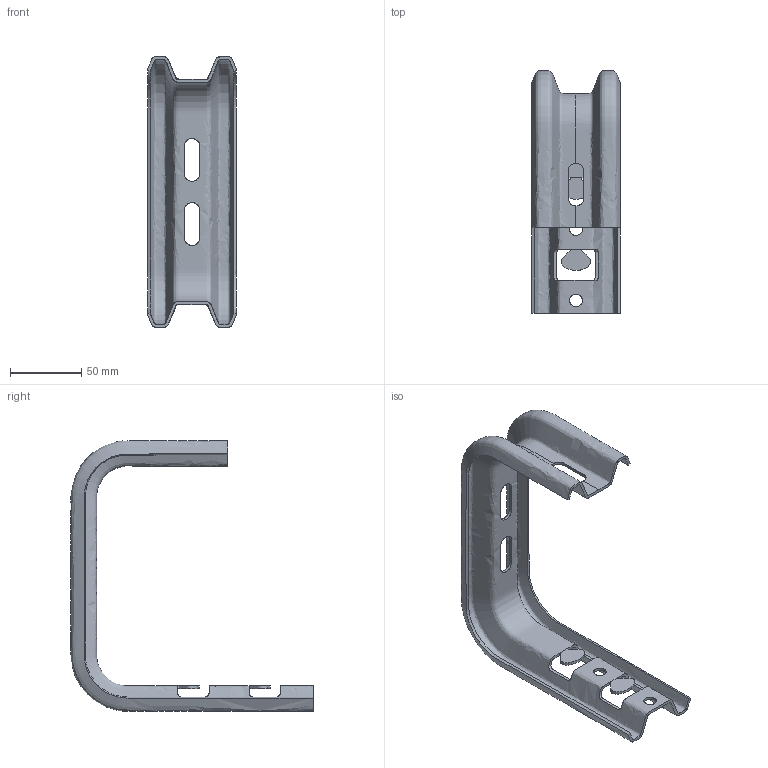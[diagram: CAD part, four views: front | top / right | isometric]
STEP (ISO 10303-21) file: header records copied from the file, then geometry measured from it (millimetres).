
FILE_DESCRIPTION(/* description */ (''),/* implementation_level */ '2;1');
FILE_NAME(/* name */ 'NZMC100',/* time_stamp */ '2012-11-29T22:28:16+01:00',/* author */ (''),/* organization */ (''),/* preprocessor_version */ 'ST-DEVELOPER v10',/* originating_system */ '',/* authorisation */ '');
FILE_SCHEMA (('AUTOMOTIVE_DESIGN_CC2'));
Length unit declared in the file: millimetre
Products named in the file (1): 1
Bounding box: 62.44 x 170.02 x 190.04 mm (x, y, z)
Surface area: 73321.9 mm2 (no closed solid volume)
Topology: 0 solids, 37 shells, 39 faces, 240 edges, 236 vertices
Faces by surface type: bspline 25, plane 14
Entity records: 19930 total; most frequent: CARTESIAN_POINT 18430, ORIENTED_EDGE 244, EDGE_CURVE 240, VERTEX_POINT 236, B_SPLINE_CURVE_WITH_KNOTS 204, EDGE_LOOP 48, ADVANCED_FACE 39, FACE_OUTER_BOUND 39
